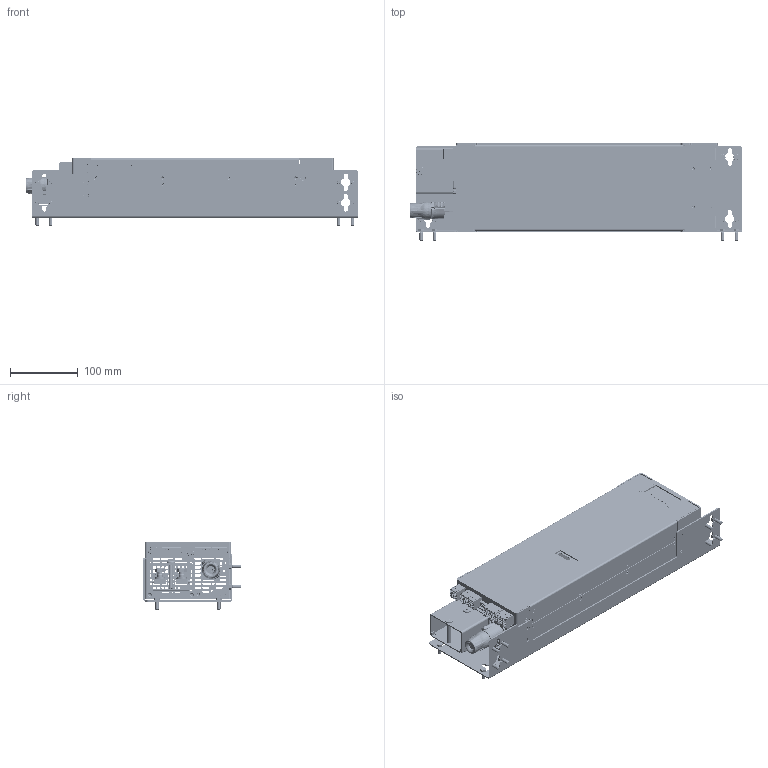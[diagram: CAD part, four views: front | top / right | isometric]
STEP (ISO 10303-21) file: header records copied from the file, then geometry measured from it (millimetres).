
FILE_DESCRIPTION(/* description */ ('Netzteil Gehäuse mit Wandhalterung','CAx-IF Rec.Pracs.---Representation and Presentation of Product Manufacturing Information (PMI)---4.0---2014-10-13'),/* implementation_level */ '2;1');
FILE_NAME(/* name */ 'E:\CAMTEC_2020_Pack and Go\PSU mit Wandhalterung\Wall Mounting.stp',/* time_stamp */ '2020-09-21T10:01:29+02:00',/* author */ ('rryba'),/* organization */ (''),/* preprocessor_version */ 'ST-DEVELOPER v18.1',/* originating_system */ 'Autodesk Inventor 2021',/* authorisation */ '');
FILE_SCHEMA (('AP242_MANAGED_MODEL_BASED_3D_ENGINEERING_MIM_LF { 1 0 10303 442 1 1 4 }'));
Products named in the file (75): Wall_Mounting; 2051079001CA; PSU; 2031049004; 2021053003; 2021054005; 2021055003; 2051037002; 2051038001; 2011059005; 2011060004; 2051033003; 2051035002; 2061083001; 2061084001; 3011127001KZ; 2530386; 2530165; Abstandrohr; Abstandrohr- Gewindebolzen; Abstandrohr- Mutter; Analog I_O; 2051054004; Analog PCB; 1277320000; 1277330000; 1277340000; Digital I_O; 2051078001; 2051055001; Digital PCB; 1597360000; 1605070000; 74990101212_rev1; Insulator_3; Insulator_2; Shielding_2; LED; LED_1; 1277290000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
Assembly tree (173 placements, depth 5):
  Wall_Mounting
    2051079001CA
    PSU
      2031049004
      2021053003
      2021054005
      2021055003
      2051037002
      2051038001
      2011059005
      2011060004
      2051033003
      2051035002  x2
      2061083001
      2061084001
      3011127001KZ
      2530386  x2
      2530165  x2
        Abstandrohr
        Abstandrohr- Gewindebolzen
        Abstandrohr- Mutter
      Analog I_O
        2051054004
        2051055001  x2
        2530278  x4
        Analog PCB
        1277290000
        1277320000
        1277330000
        1277340000
        ISO 7045 - M2,5 x 6 - 4.8 - H  x2
        DIN 433 - 2,7  x2
      Digital I_O
        2051078001
        2051055001  x2
        2530278  x4
        Digital PCB
        1597360000
        1605070000
        74990101212_rev1
          Insulator_3
          Insulator_2
          Shielding_2
          LED
          LED_1
        1277290000
        61400416121_rev1
          Insulator
          shielding
          Pin_2  x2
          Pin  x2
        DTS09SYC2M64ZM3
          N00402_BG
          R+B00067_BG  x5
          R+B00066_BG  x4
          R+B00142_BG
          R+B00137_BG
          N00573_BG
          R+B00306_BG  x2
          R+B00104_female_BG  x2
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Bounding box: 488.95 x 143 x 99.51 mm (x, y, z)
Volume: 842593.4 mm3; surface area: 924847.7 mm2
Topology: 256 solids, 261 shells, 13568 faces, 40548 edges, 32223 vertices
Faces by surface type: plane 8553, cylinder 2563, cone 1032, bspline 972, torus 414, sphere 34
Full cylindrical faces by diameter (mm): 0.242 x2, 0.281 x2, 0.6 x9, 0.7 x3, 0.9 x18, 1 x10, 1.4 x58, 1.5 x1, 1.59 x4, 1.6 x27, 1.7 x9, 1.92 x9, 1.96 x27, 2 x3, 2.013 x20, 2.156 x2, 2.161 x4, 2.256 x4, 2.3 x13, 2.459 x63, 2.5 x12, 2.55 x4, 2.693 x36, 2.7 x4, 2.729 x2, 2.8 x9, 2.95 x4, 2.954 x6, 3 x48, 3.2 x8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
Entity records: 377917 total; most frequent: CARTESIAN_POINT 119692, ORIENTED_EDGE 52336, DIRECTION 50171, EDGE_CURVE 26168, LINE 18457, VECTOR 18457, VERTEX_POINT 16981, AXIS2_PLACEMENT_3D 15857
